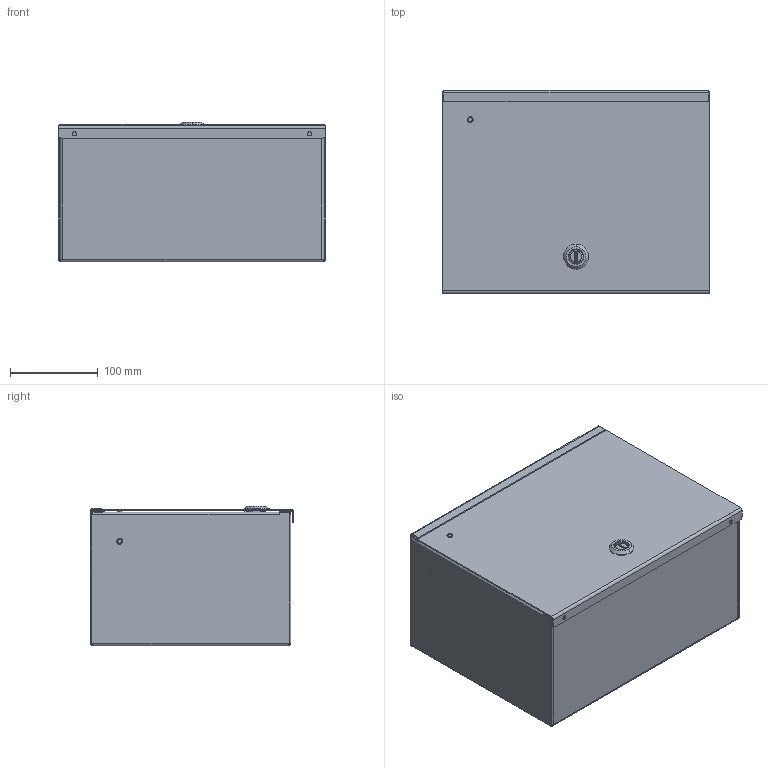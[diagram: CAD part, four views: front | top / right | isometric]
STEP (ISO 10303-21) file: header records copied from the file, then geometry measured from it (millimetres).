
FILE_DESCRIPTION((''),'2;1');
FILE_NAME('MODEL-358_ASM','2021-08-16T10:54:20',('johnh'),('SAGINAW CONTROL & ENGINEERING'),'CREO PARAMETRIC BY PTC INC, 2017260','CREO PARAMETRIC BY PTC INC, 2017260','');
FILE_SCHEMA(('AUTOMOTIVE_DESIGN { 1 0 10303 214 1 1 1 1 }'));
Length unit declared in the file: inch
Products named in the file (12): MODEL-358-BDY; MODEL-358-CVR; 128578; 128579; 100030; 100063; 105060; 123580; SUBPANEL; 102522; SUBPANEL-SUBASSEMBLY_ASM; MODEL-358_ASM
Assembly tree (21 placements, depth 3):
  MODEL-358_ASM
    MODEL-358-BDY
    MODEL-358-CVR
    128578
    128579
    100030  x4
    100063  x2
    105060  x4
    123580
    SUBPANEL-SUBASSEMBLY_ASM
      SUBPANEL
      102522  x4
Bounding box: 304.9 x 231.71 x 159.54 mm (x, y, z)
Volume: 598365.2 mm3; surface area: 764985.2 mm2
Topology: 19 solids, 19 shells, 1276 faces, 3378 edges, 2082 vertices
Faces by surface type: plane 527, cylinder 522, bspline 124, torus 64, cone 27, sphere 12
Entity records: 33892 total; most frequent: CARTESIAN_POINT 9664, DIRECTION 3535, ORIENTED_EDGE 3456, PRESENTATION_STYLE_ASSIGNMENT 1737, STYLED_ITEM 1737, CURVE_STYLE 1728, EDGE_CURVE 1728, AXIS2_PLACEMENT_3D 1292
